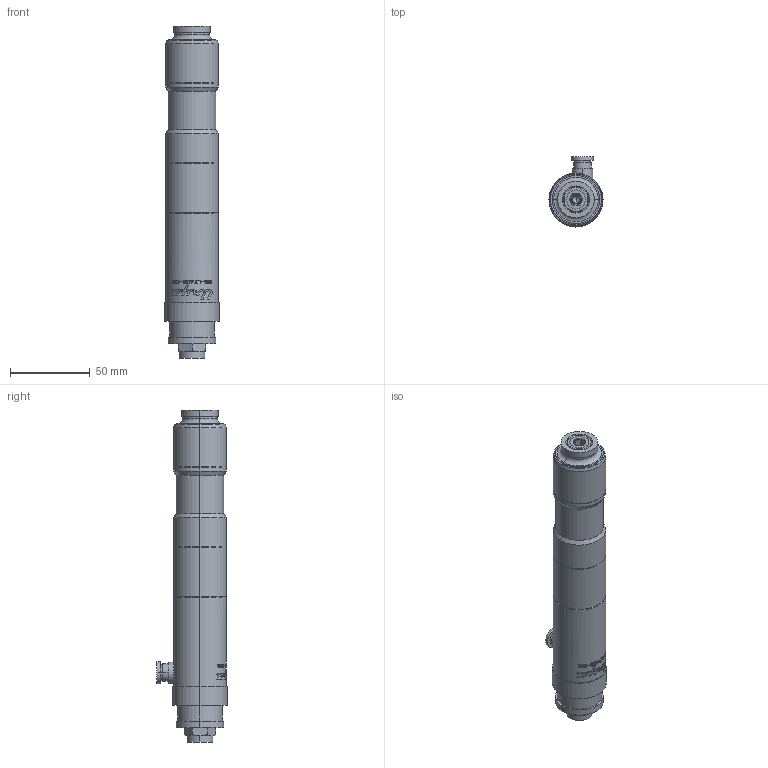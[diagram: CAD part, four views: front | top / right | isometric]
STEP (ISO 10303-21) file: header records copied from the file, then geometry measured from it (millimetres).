
FILE_DESCRIPTION (( 'STEP AP203' ), '1' );
FILE_NAME ('US-LT40B-08.STEP', '2006-03-22T04:13:29', ( '' ), ( '' ), 'SwSTEP 2.0', 'SolidWorks 2003240', '' );
FILE_SCHEMA (( 'CONFIG_CONTROL_DESIGN' ));
Length unit declared in the file: millimetre
Products named in the file (6): 4723197_US-LT40B-08_蹬怮椔; US-LT40B-08; 4725677_US-LT40B-08_蹬怮椔; 4720257_US-LT40B-08_蹬怮椔; 8930571_US-LT40B-08_蹬怮椔; 9810020_US-LT40B-08_蹬怮椔
Assembly tree (5 placements, depth 2):
  US-LT40B-08
    4725677_US-LT40B-08_蹬怮椔
    9810020_US-LT40B-08_蹬怮椔
    4723197_US-LT40B-08_蹬怮椔
    4720257_US-LT40B-08_蹬怮椔
    8930571_US-LT40B-08_蹬怮椔
Bounding box: 34 x 44 x 208.5 mm (x, y, z)
Volume: 160953.5 mm3; surface area: 29112.7 mm2
Topology: 5 solids, 5 shells, 419 faces, 1054 edges, 688 vertices
Faces by surface type: plane 143, cylinder 134, bspline 110, cone 28, sphere 2, torus 2
Entity records: 19472 total; most frequent: CARTESIAN_POINT 9722, ORIENTED_EDGE 2094, DIRECTION 1541, EDGE_CURVE 1047, VERTEX_POINT 685, AXIS2_PLACEMENT_3D 559, EDGE_LOOP 470, VECTOR 423
